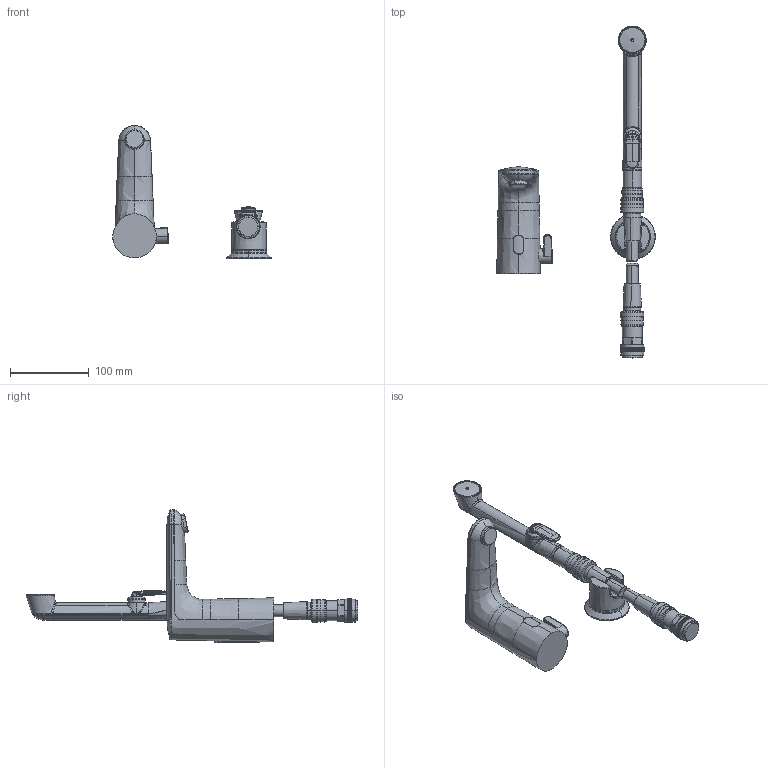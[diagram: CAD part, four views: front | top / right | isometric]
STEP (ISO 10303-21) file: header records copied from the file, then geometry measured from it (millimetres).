
FILE_DESCRIPTION (( 'STEP AP203' ), '1' );
FILE_NAME ('9262FMZ(2024).STEP', '2023-11-06T11:28:48', ( '' ), ( '' ), 'SwSTEP 2.0', 'SolidWorks 2016', '' );
FILE_SCHEMA (( 'CONFIG_CONTROL_DESIGN' ));
Products named in the file (1): 9262FMZ(2024)
Bounding box: 201.03 x 420.75 x 168.66 mm (x, y, z)
Volume: 657906.2 mm3; surface area: 104592.4 mm2
Topology: 17 solids, 17 shells, 2257 faces, 5244 edges, 3409 vertices
Faces by surface type: plane 1257, bspline 601, cylinder 323, cone 46, torus 30
Entity records: 111365 total; most frequent: CARTESIAN_POINT 69923, ORIENTED_EDGE 10480, DIRECTION 6179, EDGE_CURVE 5240, VERTEX_POINT 3409, EDGE_LOOP 2649, AXIS2_PLACEMENT_3D 2534, ADVANCED_FACE 2257
